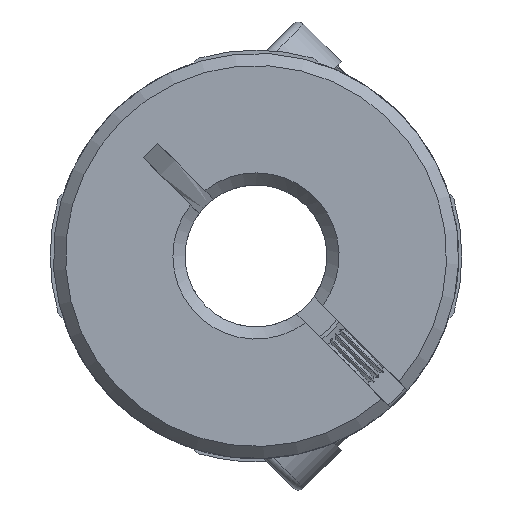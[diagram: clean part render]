
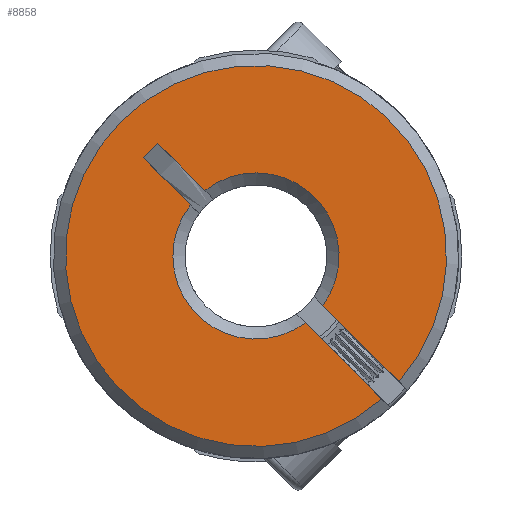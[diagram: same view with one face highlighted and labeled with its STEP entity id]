
A CAD part, front view. The second image highlights one B-rep face of the part: STEP entity #8858.
In plain terms, the highlighted planar face has unit normal (0, -1, 0).
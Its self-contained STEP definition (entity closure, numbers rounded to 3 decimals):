
#200 = LINE ( 'NONE', #3210, #5098 ) ;
#580 = EDGE_CURVE ( 'NONE', #9748, #6873, #994, .T. ) ;
#612 = AXIS2_PLACEMENT_3D ( 'NONE', #1512, #5673, #9581 ) ;
#994 = CIRCLE ( 'NONE', #10289, 9.4 ) ;
#1114 = EDGE_CURVE ( 'NONE', #1402, #7005, #4612, .T. ) ;
#1358 = CARTESIAN_POINT ( 'NONE',  ( 342.528, -12.6, 364.579 ) ) ;
#1402 = VERTEX_POINT ( 'NONE', #10914 ) ;
#1512 = CARTESIAN_POINT ( 'NONE',  ( 0., -12.6, 0. ) ) ;
#1839 = ORIENTED_EDGE ( 'NONE', *, *, #9676, .T. ) ;
#2187 = CARTESIAN_POINT ( 'NONE',  ( 0., -12.6, 0. ) ) ;
#2225 = PLANE ( 'NONE',  #3879 ) ;
#2314 = LINE ( 'NONE', #3423, #7360 ) ;
#2586 = EDGE_CURVE ( 'NONE', #9936, #12061, #4412, .T. ) ;
#2730 = DIRECTION ( 'NONE',  ( 0., 1., 0. ) ) ;
#3210 = CARTESIAN_POINT ( 'NONE',  ( -4.842, -12.6, 5.549 ) ) ;
#3423 = CARTESIAN_POINT ( 'NONE',  ( 2.014, -12.6, -2.863 ) ) ;
#3442 = EDGE_CURVE ( 'NONE', #9083, #7005, #7839, .T. ) ;
#3649 = CARTESIAN_POINT ( 'NONE',  ( 6.209, -12.6, -7.058 ) ) ;
#3879 = AXIS2_PLACEMENT_3D ( 'NONE', #1358, #10412, #8255 ) ;
#3927 = CARTESIAN_POINT ( 'NONE',  ( -2.524, -12.6, 3.231 ) ) ;
#3986 = CARTESIAN_POINT ( 'NONE',  ( -3.231, -12.6, 2.524 ) ) ;
#4100 = DIRECTION ( 'NONE',  ( 0.707, 0., -0.707 ) ) ;
#4166 = VECTOR ( 'NONE', #4818, 1000. ) ;
#4282 = ORIENTED_EDGE ( 'NONE', *, *, #12217, .F. ) ;
#4412 = LINE ( 'NONE', #12249, #11470 ) ;
#4612 = LINE ( 'NONE', #8660, #8368 ) ;
#4778 = ORIENTED_EDGE ( 'NONE', *, *, #8965, .F. ) ;
#4818 = DIRECTION ( 'NONE',  ( -0.707, 0., 0.707 ) ) ;
#5098 = VECTOR ( 'NONE', #5159, 1000. ) ;
#5159 = DIRECTION ( 'NONE',  ( -0.707, 0., -0.707 ) ) ;
#5673 = DIRECTION ( 'NONE',  ( 0., 1., 0. ) ) ;
#5727 = DIRECTION ( 'NONE',  ( 0.707, 0., -0.707 ) ) ;
#6181 = ORIENTED_EDGE ( 'NONE', *, *, #1114, .F. ) ;
#6623 = ORIENTED_EDGE ( 'NONE', *, *, #2586, .T. ) ;
#6849 = CARTESIAN_POINT ( 'NONE',  ( 7.058, -12.6, -6.209 ) ) ;
#6873 = VERTEX_POINT ( 'NONE', #3649 ) ;
#7005 = VERTEX_POINT ( 'NONE', #3986 ) ;
#7360 = VECTOR ( 'NONE', #8514, 1000. ) ;
#7389 = EDGE_CURVE ( 'NONE', #9748, #7488, #9647, .T. ) ;
#7488 = VERTEX_POINT ( 'NONE', #11042 ) ;
#7839 = CIRCLE ( 'NONE', #10058, 4.1 ) ;
#8255 = DIRECTION ( 'NONE',  ( 0.707, 0., -0.707 ) ) ;
#8368 = VECTOR ( 'NONE', #9583, 1000. ) ;
#8514 = DIRECTION ( 'NONE',  ( 0.707, 0., -0.707 ) ) ;
#8643 = CARTESIAN_POINT ( 'NONE',  ( 2.444, -12.6, -3.292 ) ) ;
#8660 = CARTESIAN_POINT ( 'NONE',  ( 4.95, -12.6, -5.657 ) ) ;
#8858 = ADVANCED_FACE ( 'NONE', ( #10499 ), #2225, .F. ) ;
#8965 = EDGE_CURVE ( 'NONE', #9083, #6873, #2314, .T. ) ;
#9083 = VERTEX_POINT ( 'NONE', #8643 ) ;
#9581 = DIRECTION ( 'NONE',  ( 0.707, 0., -0.707 ) ) ;
#9583 = DIRECTION ( 'NONE',  ( 0.707, 0., -0.707 ) ) ;
#9647 = LINE ( 'NONE', #9734, #4166 ) ;
#9676 = EDGE_CURVE ( 'NONE', #12061, #7488, #12518, .T. ) ;
#9734 = CARTESIAN_POINT ( 'NONE',  ( 2.863, -12.6, -2.014 ) ) ;
#9748 = VERTEX_POINT ( 'NONE', #6849 ) ;
#9936 = VERTEX_POINT ( 'NONE', #11326 ) ;
#10058 = AXIS2_PLACEMENT_3D ( 'NONE', #12796, #2730, #5727 ) ;
#10289 = AXIS2_PLACEMENT_3D ( 'NONE', #2187, #12245, #4100 ) ;
#10332 = DIRECTION ( 'NONE',  ( 0.707, 0., -0.707 ) ) ;
#10412 = DIRECTION ( 'NONE',  ( 0., 1., 0. ) ) ;
#10499 = FACE_OUTER_BOUND ( 'NONE', #10710, .T. ) ;
#10630 = ORIENTED_EDGE ( 'NONE', *, *, #3442, .T. ) ;
#10710 = EDGE_LOOP ( 'NONE', ( #6623, #1839, #11586, #10938, #4778, #10630, #6181, #4282 ) ) ;
#10914 = CARTESIAN_POINT ( 'NONE',  ( -5.549, -12.6, 4.842 ) ) ;
#10938 = ORIENTED_EDGE ( 'NONE', *, *, #580, .T. ) ;
#11042 = CARTESIAN_POINT ( 'NONE',  ( 3.292, -12.6, -2.444 ) ) ;
#11326 = CARTESIAN_POINT ( 'NONE',  ( -4.842, -12.6, 5.549 ) ) ;
#11470 = VECTOR ( 'NONE', #10332, 1000. ) ;
#11586 = ORIENTED_EDGE ( 'NONE', *, *, #7389, .F. ) ;
#12061 = VERTEX_POINT ( 'NONE', #3927 ) ;
#12217 = EDGE_CURVE ( 'NONE', #9936, #1402, #200, .T. ) ;
#12245 = DIRECTION ( 'NONE',  ( 0., -1., 0. ) ) ;
#12249 = CARTESIAN_POINT ( 'NONE',  ( 5.657, -12.6, -4.95 ) ) ;
#12518 = CIRCLE ( 'NONE', #612, 4.1 ) ;
#12796 = CARTESIAN_POINT ( 'NONE',  ( 0., -12.6, 0. ) ) ;
